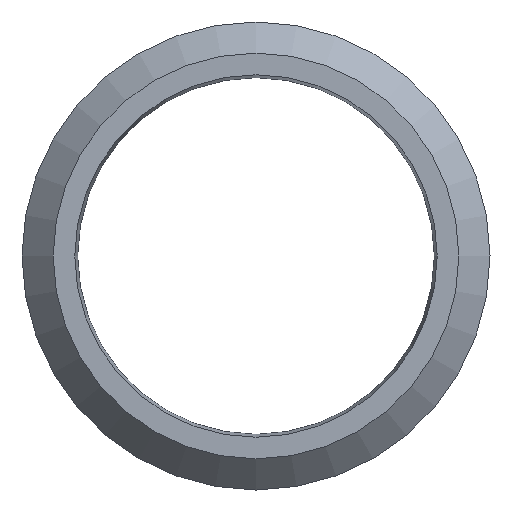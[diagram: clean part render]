
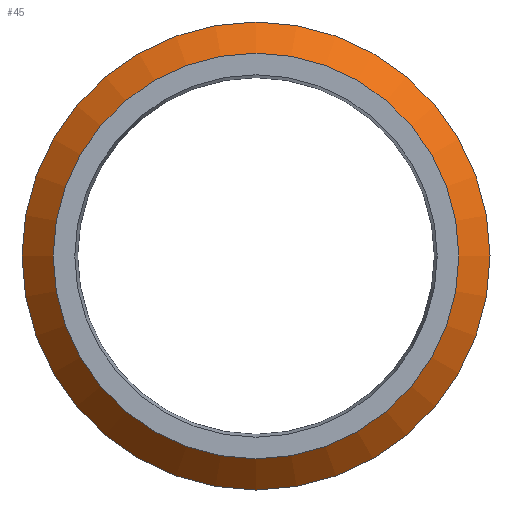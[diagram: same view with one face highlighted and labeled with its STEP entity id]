
A CAD part, left-side view. The second image highlights one B-rep face of the part: STEP entity #45.
In plain terms, the highlighted conical face has half-angle 45 degrees and reference radius 9.8 mm.
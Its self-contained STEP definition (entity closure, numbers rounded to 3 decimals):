
#45 = ADVANCED_FACE( '', ( #98, #99 ), #100, .T. );
#98 = FACE_BOUND( '', #165, .T. );
#99 = FACE_OUTER_BOUND( '', #166, .T. );
#100 = CONICAL_SURFACE( '', #167, 9.8, 0.785 );
#165 = EDGE_LOOP( '', ( #266 ) );
#166 = EDGE_LOOP( '', ( #267 ) );
#167 = AXIS2_PLACEMENT_3D( '', #268, #269, #270 );
#266 = ORIENTED_EDGE( '', *, *, #341, .T. );
#267 = ORIENTED_EDGE( '', *, *, #343, .T. );
#268 = CARTESIAN_POINT( '', ( -5.125, -3.633, 0. ) );
#269 = DIRECTION( '', ( 1., 0., 0. ) );
#270 = DIRECTION( '', ( 0., -1., 0. ) );
#341 = EDGE_CURVE( '', #375, #375, #376, .T. );
#343 = EDGE_CURVE( '', #378, #378, #379, .T. );
#375 = VERTEX_POINT( '', #420 );
#376 = CIRCLE( '', #421, 9.1 );
#378 = VERTEX_POINT( '', #423 );
#379 = CIRCLE( '', #424, 10.5 );
#420 = CARTESIAN_POINT( '', ( -5.825, -12.733, 0. ) );
#421 = AXIS2_PLACEMENT_3D( '', #466, #467, #468 );
#423 = CARTESIAN_POINT( '', ( -4.425, -14.133, 0. ) );
#424 = AXIS2_PLACEMENT_3D( '', #469, #470, #471 );
#466 = CARTESIAN_POINT( '', ( -5.825, -3.633, 0. ) );
#467 = DIRECTION( '', ( 1., 0., 0. ) );
#468 = DIRECTION( '', ( 0., -1., 0. ) );
#469 = CARTESIAN_POINT( '', ( -4.425, -3.633, 0. ) );
#470 = DIRECTION( '', ( -1., 0., 0. ) );
#471 = DIRECTION( '', ( 0., -1., 0. ) );
